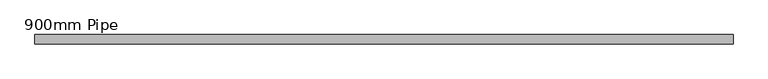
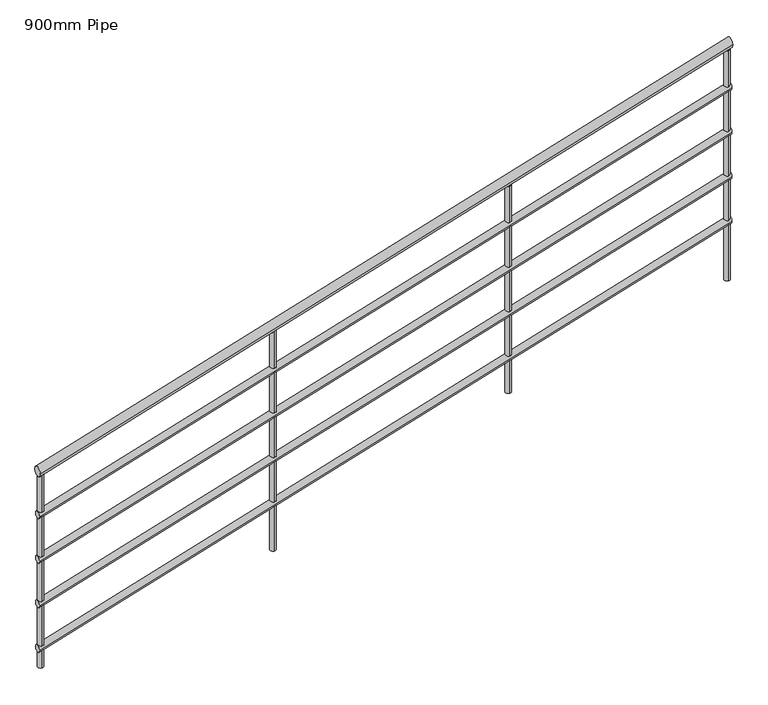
"""IFC4 building model written with IfcOpenShell, lengths in millimetres: railing geometry, 900mm Pipe."""

from ifc_helpers import new_model, si_unit, frame, origin, place, context, project, spatial, circle_curve, ellipse_curve, source, transform, mapped, element, save
from ifc_brep_helpers import plane_surface, cylinder_surface, advanced_brep


def railing_900mm_pipe_ecdd04f7(model_context):
    return source(origin(), model_context, "Body", "AdvancedBrep", [
        advanced_brep(
        [(864749.1286387, 83116.8219152, 3058.386247), (864749.1286387, 83156.8219152, 3058.386247), (867691.1824987, 83116.8219152, 3954.8568352), (867691.1824987, 83156.8219152, 3954.8568352)],
        [
            (0, 1, ellipse_curve(frame((864749.1286387, 83136.8219152, 3058.386247), z_axis=(-1.0, 0.0, 0.0), x_axis=(0.0, 0.0, -1.0)), 20.9078706, 20.0)),
            (1, 0, ellipse_curve(frame((864749.1286387, 83136.8219152, 3058.386247), z_axis=(-1.0, 0.0, 0.0), x_axis=(0.0, 0.0, -1.0)), 20.9078706, 20.0)),
            (2, 3, ellipse_curve(frame((867691.1824987, 83136.8219152, 3954.8568352), z_axis=(1.0, 0.0, 0.0), x_axis=(0.0, 0.0, -1.0)), 20.9078706, 20.0)),
            (3, 2, ellipse_curve(frame((867691.1824987, 83136.8219152, 3954.8568352), z_axis=(1.0, 0.0, 0.0), x_axis=(0.0, 0.0, -1.0)), 20.9078706, 20.0)),
            (1, 3),
            (2, 0),
        ],
        [
            plane_surface(frame((864749.1286387, 83136.8219152, 3079.2941176), z_axis=(-1.0, 0.0, 0.0), x_axis=(0.0, 1.0, 0.0))),
            plane_surface(frame((867691.1824987, 83136.8219152, 3975.7647059), z_axis=(1.0, 0.0, 0.0), x_axis=(0.0, 1.0, 0.0))),
            cylinder_surface(frame((864754.9581965, 83136.8219152, 3060.1625663), z_axis=(-0.9565775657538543, 0.0, -0.2914778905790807), x_axis=(0.0, 1.0, 0.0)), 20.0),
        ],
        [
            (0, [[1, 2]]),
            (1, [[3, 4]]),
            (2, [[-2, 5, -3, 6]]),
            (2, [[-1, -6, -4, -5]]),
        ],
    ),
        advanced_brep(
        [(864749.1286387, 83121.8219152, 2863.6132147), (864749.1286387, 83151.8219152, 2863.6132147), (867691.1824987, 83121.8219152, 3760.0838029), (867691.1824987, 83151.8219152, 3760.0838029)],
        [
            (0, 1, ellipse_curve(frame((864749.1286387, 83136.8219152, 2863.6132147), z_axis=(-1.0, 0.0, 0.0), x_axis=(0.0, 0.0, -1.0)), 15.680903, 15.0)),
            (1, 0, ellipse_curve(frame((864749.1286387, 83136.8219152, 2863.6132147), z_axis=(-1.0, 0.0, 0.0), x_axis=(0.0, 0.0, -1.0)), 15.680903, 15.0)),
            (2, 3, ellipse_curve(frame((867691.1824987, 83136.8219152, 3760.0838029), z_axis=(1.0, 0.0, 0.0), x_axis=(0.0, 0.0, -1.0)), 15.680903, 15.0)),
            (3, 2, ellipse_curve(frame((867691.1824987, 83136.8219152, 3760.0838029), z_axis=(1.0, 0.0, 0.0), x_axis=(0.0, 0.0, -1.0)), 15.680903, 15.0)),
            (0, 2),
            (3, 1),
        ],
        [
            plane_surface(frame((864749.1286387, 83136.8219152, 2879.2941176), z_axis=(-1.0, 0.0, 0.0), x_axis=(0.0, 1.0, 0.0))),
            plane_surface(frame((867691.1824987, 83136.8219152, 3775.7647059), z_axis=(1.0, 0.0, 0.0), x_axis=(0.0, 1.0, 0.0))),
            cylinder_surface(frame((864753.5008071, 83136.8219152, 2864.9454542), z_axis=(-0.9565775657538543, 0.0, -0.2914778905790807), x_axis=(0.0, 1.0, 0.0)), 15.0),
        ],
        [
            (0, [[1, 2]]),
            (1, [[3, 4]]),
            (2, [[-1, 5, -4, 6]]),
            (2, [[-2, -6, -3, -5]]),
        ],
    ),
        advanced_brep(
        [(864749.1286387, 83121.8219152, 2663.6132147), (864749.1286387, 83151.8219152, 2663.6132147), (867691.1824987, 83121.8219152, 3560.0838029), (867691.1824987, 83151.8219152, 3560.0838029)],
        [
            (0, 1, ellipse_curve(frame((864749.1286387, 83136.8219152, 2663.6132147), z_axis=(-1.0, 0.0, 0.0), x_axis=(0.0, 0.0, -1.0)), 15.680903, 15.0)),
            (1, 0, ellipse_curve(frame((864749.1286387, 83136.8219152, 2663.6132147), z_axis=(-1.0, 0.0, 0.0), x_axis=(0.0, 0.0, -1.0)), 15.680903, 15.0)),
            (2, 3, ellipse_curve(frame((867691.1824987, 83136.8219152, 3560.0838029), z_axis=(1.0, 0.0, 0.0), x_axis=(0.0, 0.0, -1.0)), 15.680903, 15.0)),
            (3, 2, ellipse_curve(frame((867691.1824987, 83136.8219152, 3560.0838029), z_axis=(1.0, 0.0, 0.0), x_axis=(0.0, 0.0, -1.0)), 15.680903, 15.0)),
            (0, 2),
            (3, 1),
        ],
        [
            plane_surface(frame((864749.1286387, 83136.8219152, 2679.2941176), z_axis=(-1.0, 0.0, 0.0), x_axis=(0.0, 1.0, 0.0))),
            plane_surface(frame((867691.1824987, 83136.8219152, 3575.7647059), z_axis=(1.0, 0.0, 0.0), x_axis=(0.0, 1.0, 0.0))),
            cylinder_surface(frame((864753.5008071, 83136.8219152, 2664.9454542), z_axis=(-0.9565775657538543, 0.0, -0.2914778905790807), x_axis=(0.0, 1.0, 0.0)), 15.0),
        ],
        [
            (0, [[1, 2]]),
            (1, [[3, 4]]),
            (2, [[-1, 5, -4, 6]]),
            (2, [[-2, -6, -3, -5]]),
        ],
    ),
        advanced_brep(
        [(864749.1286387, 83121.8219152, 2463.6132147), (864749.1286387, 83151.8219152, 2463.6132147), (867691.1824987, 83121.8219152, 3360.0838029), (867691.1824987, 83151.8219152, 3360.0838029)],
        [
            (0, 1, ellipse_curve(frame((864749.1286387, 83136.8219152, 2463.6132147), z_axis=(-1.0, 0.0, 0.0), x_axis=(0.0, 0.0, -1.0)), 15.680903, 15.0)),
            (1, 0, ellipse_curve(frame((864749.1286387, 83136.8219152, 2463.6132147), z_axis=(-1.0, 0.0, 0.0), x_axis=(0.0, 0.0, -1.0)), 15.680903, 15.0)),
            (2, 3, ellipse_curve(frame((867691.1824987, 83136.8219152, 3360.0838029), z_axis=(1.0, 0.0, 0.0), x_axis=(0.0, 0.0, -1.0)), 15.680903, 15.0)),
            (3, 2, ellipse_curve(frame((867691.1824987, 83136.8219152, 3360.0838029), z_axis=(1.0, 0.0, 0.0), x_axis=(0.0, 0.0, -1.0)), 15.680903, 15.0)),
            (0, 2),
            (3, 1),
        ],
        [
            plane_surface(frame((864749.1286387, 83136.8219152, 2479.2941176), z_axis=(-1.0, 0.0, 0.0), x_axis=(0.0, 1.0, 0.0))),
            plane_surface(frame((867691.1824987, 83136.8219152, 3375.7647059), z_axis=(1.0, 0.0, 0.0), x_axis=(0.0, 1.0, 0.0))),
            cylinder_surface(frame((864753.5008071, 83136.8219152, 2464.9454542), z_axis=(-0.9565775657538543, 0.0, -0.2914778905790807), x_axis=(0.0, 1.0, 0.0)), 15.0),
        ],
        [
            (0, [[1, 2]]),
            (1, [[3, 4]]),
            (2, [[-1, 5, -4, 6]]),
            (2, [[-2, -6, -3, -5]]),
        ],
    ),
        advanced_brep(
        [(864749.1286387, 83121.8219152, 2263.6132147), (864749.1286387, 83151.8219152, 2263.6132147), (867691.1824987, 83121.8219152, 3160.0838029), (867691.1824987, 83151.8219152, 3160.0838029)],
        [
            (0, 1, ellipse_curve(frame((864749.1286387, 83136.8219152, 2263.6132147), z_axis=(-1.0, 0.0, 0.0), x_axis=(0.0, 0.0, -1.0)), 15.680903, 15.0)),
            (1, 0, ellipse_curve(frame((864749.1286387, 83136.8219152, 2263.6132147), z_axis=(-1.0, 0.0, 0.0), x_axis=(0.0, 0.0, -1.0)), 15.680903, 15.0)),
            (2, 3, ellipse_curve(frame((867691.1824987, 83136.8219152, 3160.0838029), z_axis=(1.0, 0.0, 0.0), x_axis=(0.0, 0.0, -1.0)), 15.680903, 15.0)),
            (3, 2, ellipse_curve(frame((867691.1824987, 83136.8219152, 3160.0838029), z_axis=(1.0, 0.0, 0.0), x_axis=(0.0, 0.0, -1.0)), 15.680903, 15.0)),
            (0, 2),
            (3, 1),
        ],
        [
            plane_surface(frame((864749.1286387, 83136.8219152, 2279.2941176), z_axis=(-1.0, 0.0, 0.0), x_axis=(0.0, 1.0, 0.0))),
            plane_surface(frame((867691.1824987, 83136.8219152, 3175.7647059), z_axis=(1.0, 0.0, 0.0), x_axis=(0.0, 1.0, 0.0))),
            cylinder_surface(frame((864753.5008071, 83136.8219152, 2264.9454542), z_axis=(-0.9565775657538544, 0.0, -0.2914778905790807), x_axis=(0.0, 1.0, 0.0)), 15.0),
        ],
        [
            (0, [[1, 2]]),
            (1, [[3, 4]]),
            (2, [[-1, 5, -4, 6]]),
            (2, [[-2, -6, -3, -5]]),
        ],
    ),
        advanced_brep(
        [(866749.1286387, 83149.3219152, 3646.8965794), (866749.1286387, 83124.3219152, 3646.8965794), (866749.1286387, 83124.3219152, 2717.1764706), (866749.1286387, 83149.3219152, 2717.1764706)],
        [
            (0, 1, ellipse_curve(frame((866749.1286387, 83136.8219152, 3646.8965794), z_axis=(0.2914778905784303, 0.0, -0.9565775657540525), x_axis=(0.9565775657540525, 0.0, 0.2914778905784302)), 13.0674191, 12.5)),
            (1, 2),
            (2, 3, circle_curve(frame((866749.1286387, 83136.8219152, 2717.1764706), z_axis=(0.0, 0.0, 1.0), x_axis=(0.0, -1.0, 0.0)), 12.5)),
            (3, 0),
            (3, 2, circle_curve(frame((866749.1286387, 83136.8219152, 2717.1764706), z_axis=(0.0, 0.0, 1.0), x_axis=(0.0, -1.0, 0.0)), 12.5)),
            (1, 0, ellipse_curve(frame((866749.1286387, 83136.8219152, 3646.8965794), z_axis=(0.2914778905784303, 0.0, -0.9565775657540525), x_axis=(0.9565775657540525, 0.0, 0.2914778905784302)), 13.0674191, 12.5)),
        ],
        [
            cylinder_surface(frame((866749.1286387, 83136.8219152, 2617.1764706), z_axis=(0.0, 0.0, 1.0), x_axis=(0.0, -1.0, 0.0)), 12.5),
            plane_surface(frame((866774.1286387, 83111.8219152, 3654.5143069), z_axis=(-0.2914778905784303, 0.0, 0.9565775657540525), x_axis=(0.0, 1.0, 0.0))),
            plane_surface(frame((866724.1286387, 83111.8219152, 2717.1764706), z_axis=(0.0, 0.0, -1.0), x_axis=(0.0, 1.0, 0.0))),
        ],
        [
            (0, [[1, 2, 3, 4]]),
            (0, [[5, -2, 6, -4]]),
            (1, [[-6, -1]]),
            (2, [[-5, -3]]),
        ],
    ),
        advanced_brep(
        [(865749.1286387, 83149.3219152, 3342.1874779), (865749.1286387, 83124.3219152, 3342.1874779), (865749.1286387, 83124.3219152, 2358.5882353), (865749.1286387, 83149.3219152, 2358.5882353)],
        [
            (0, 1, ellipse_curve(frame((865749.1286387, 83136.8219152, 3342.1874779), z_axis=(0.2914778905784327, 0.0, -0.9565775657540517), x_axis=(0.9565775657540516, 0.0, 0.29147789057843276)), 13.0674191, 12.5)),
            (1, 2),
            (2, 3, circle_curve(frame((865749.1286387, 83136.8219152, 2358.5882353), z_axis=(0.0, 0.0, 1.0), x_axis=(0.0, -1.0, 0.0)), 12.5)),
            (3, 0),
            (3, 2, circle_curve(frame((865749.1286387, 83136.8219152, 2358.5882353), z_axis=(0.0, 0.0, 1.0), x_axis=(0.0, -1.0, 0.0)), 12.5)),
            (1, 0, ellipse_curve(frame((865749.1286387, 83136.8219152, 3342.1874779), z_axis=(0.2914778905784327, 0.0, -0.9565775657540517), x_axis=(0.9565775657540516, 0.0, 0.29147789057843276)), 13.0674191, 12.5)),
        ],
        [
            cylinder_surface(frame((865749.1286387, 83136.8219152, 2258.5882353), z_axis=(0.0, 0.0, 1.0), x_axis=(0.0, -1.0, 0.0)), 12.5),
            plane_surface(frame((865774.1286387, 83111.8219152, 3349.8052054), z_axis=(-0.2914778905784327, 0.0, 0.9565775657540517), x_axis=(0.0, 1.0, 0.0))),
            plane_surface(frame((865724.1286387, 83111.8219152, 2358.5882353), z_axis=(0.0, 0.0, -1.0), x_axis=(0.0, 1.0, 0.0))),
        ],
        [
            (0, [[1, 2, 3, 4]]),
            (0, [[5, -2, 6, -4]]),
            (1, [[-6, -1]]),
            (2, [[-5, -3]]),
        ],
    ),
        advanced_brep(
        [(867678.6824987, 83149.3219152, 3930.1401008), (867678.6824987, 83124.3219152, 3930.1401008), (867678.6824987, 83124.3219152, 2896.4705882), (867678.6824987, 83149.3219152, 2896.4705882)],
        [
            (0, 1, ellipse_curve(frame((867678.6824987, 83136.8219152, 3930.1401008), z_axis=(0.2914778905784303, 0.0, -0.9565775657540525), x_axis=(0.9565775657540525, 0.0, 0.2914778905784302)), 13.0674191, 12.5)),
            (1, 2),
            (2, 3, circle_curve(frame((867678.6824987, 83136.8219152, 2896.4705882), z_axis=(0.0, 0.0, 1.0), x_axis=(0.0, -1.0, 0.0)), 12.5)),
            (3, 0),
            (3, 2, circle_curve(frame((867678.6824987, 83136.8219152, 2896.4705882), z_axis=(0.0, 0.0, 1.0), x_axis=(0.0, -1.0, 0.0)), 12.5)),
            (1, 0, ellipse_curve(frame((867678.6824987, 83136.8219152, 3930.1401008), z_axis=(0.2914778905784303, 0.0, -0.9565775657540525), x_axis=(0.9565775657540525, 0.0, 0.2914778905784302)), 13.0674191, 12.5)),
        ],
        [
            cylinder_surface(frame((867678.6824987, 83136.8219152, 2796.4705882), z_axis=(0.0, 0.0, 1.0), x_axis=(0.0, -1.0, 0.0)), 12.5),
            plane_surface(frame((867703.6824987, 83111.8219152, 3937.7578284), z_axis=(-0.2914778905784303, 0.0, 0.9565775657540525), x_axis=(0.0, 1.0, 0.0))),
            plane_surface(frame((867653.6824987, 83111.8219152, 2896.4705882), z_axis=(0.0, 0.0, -1.0), x_axis=(0.0, 1.0, 0.0))),
        ],
        [
            (0, [[1, 2, 3, 4]]),
            (0, [[5, -2, 6, -4]]),
            (1, [[-6, -1]]),
            (2, [[-5, -3]]),
        ],
    ),
        advanced_brep(
        [(864761.6286387, 83149.3219152, 3041.2872401), (864761.6286387, 83124.3219152, 3041.2872401), (864761.6286387, 83124.3219152, 2179.2941176), (864761.6286387, 83149.3219152, 2179.2941176)],
        [
            (0, 1, ellipse_curve(frame((864761.6286387, 83136.8219152, 3041.2872401), z_axis=(0.2914778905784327, 0.0, -0.9565775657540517), x_axis=(0.9565775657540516, 0.0, 0.29147789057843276)), 13.0674191, 12.5)),
            (1, 2),
            (2, 3, circle_curve(frame((864761.6286387, 83136.8219152, 2179.2941176), z_axis=(0.0, 0.0, 1.0), x_axis=(0.0, -1.0, 0.0)), 12.5)),
            (3, 0),
            (3, 2, circle_curve(frame((864761.6286387, 83136.8219152, 2179.2941176), z_axis=(0.0, 0.0, 1.0), x_axis=(0.0, -1.0, 0.0)), 12.5)),
            (1, 0, ellipse_curve(frame((864761.6286387, 83136.8219152, 3041.2872401), z_axis=(0.2914778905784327, 0.0, -0.9565775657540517), x_axis=(0.9565775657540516, 0.0, 0.29147789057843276)), 13.0674191, 12.5)),
        ],
        [
            cylinder_surface(frame((864761.6286387, 83136.8219152, 2079.2941176), z_axis=(0.0, 0.0, 1.0), x_axis=(0.0, -1.0, 0.0)), 12.5),
            plane_surface(frame((864786.6286387, 83111.8219152, 3048.9049677), z_axis=(-0.2914778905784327, 0.0, 0.9565775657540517), x_axis=(0.0, 1.0, 0.0))),
            plane_surface(frame((864736.6286387, 83111.8219152, 2179.2941176), z_axis=(0.0, 0.0, -1.0), x_axis=(0.0, 1.0, 0.0))),
        ],
        [
            (0, [[1, 2, 3, 4]]),
            (0, [[5, -2, 6, -4]]),
            (1, [[-6, -1]]),
            (2, [[-5, -3]]),
        ],
    ),
    ])


if __name__ == "__main__":
    model = new_model("IFC4")
    model_context = context("Model", 3, world=origin())
    ifc_project = project(units=[si_unit("LENGTHUNIT", "METRE", prefix="MILLI")], contexts=[model_context])
    site = spatial("IfcSite", under=ifc_project)
    building = spatial("IfcBuilding", under=site)
    placement = place(None, origin())
    railing_900mm_pipe_shape = railing_900mm_pipe_ecdd04f7(model_context)
    element("IfcRailing", 1, ObjectType="900mm Pipe", at=placement, inside=building, context=model_context, shape_type="MappedRepresentation", body=[
        mapped(railing_900mm_pipe_shape, transform((0.0, 0.0, 0.0), x_axis=(1.0, 0.0, 0.0), y_axis=(0.0, 1.0, 0.0), z_axis=(0.0, 0.0, 1.0))),
    ])
    save(model, "model.ifc")
